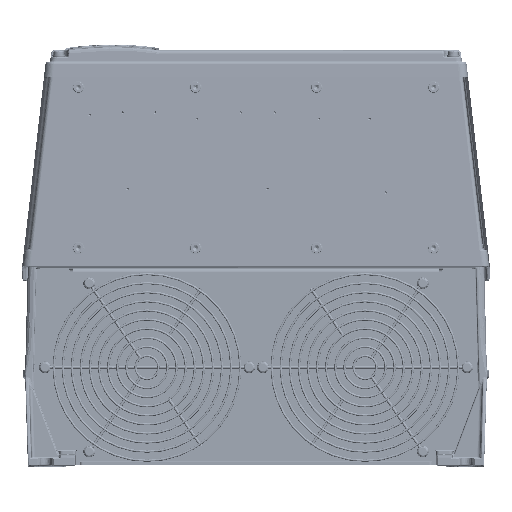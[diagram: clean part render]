
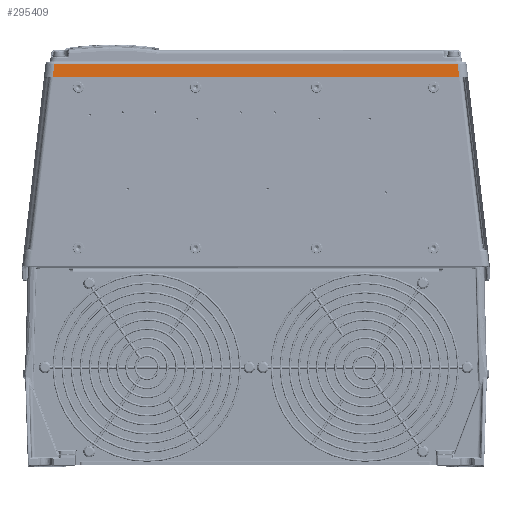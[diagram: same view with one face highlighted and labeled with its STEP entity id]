
A CAD part, top view. The second image highlights one B-rep face of the part: STEP entity #295409.
In plain terms, the highlighted planar face has unit normal (0, 0.035, 0.999).
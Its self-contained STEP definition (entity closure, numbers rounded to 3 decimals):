
#74630=CARTESIAN_POINT('',(-161.254,142.5,376.512));
#74640=DIRECTION('',(-1.,0.,0.));
#74641=VECTOR('',#74640,322.508);
#74642=CARTESIAN_POINT('',(161.254,142.5,376.512));
#74643=LINE('',#74642,#74641);
#74652=CARTESIAN_POINT('',(161.254,142.5,376.512));
#78473=DIRECTION('',(1.,0.,0.));
#78474=VECTOR('',#78473,320.133);
#78475=CARTESIAN_POINT('',(-160.066,152.763,
376.154));
#78476=LINE('',#78475,#78474);
#78477=DIRECTION('',(-0.115,0.993,-0.035));
#78478=VECTOR('',#78477,10.338);
#78479=CARTESIAN_POINT('',(161.254,142.5,376.512));
#78480=LINE('',#78479,#78478);
#78481=DIRECTION('',(0.115,0.993,-0.035));
#78482=VECTOR('',#78481,10.338);
#78483=CARTESIAN_POINT('',(-161.254,142.5,376.512));
#78484=LINE('',#78483,#78482);
#78529=CARTESIAN_POINT('',(-160.066,152.763,
376.154));
#122210=VERTEX_POINT('',#74630);
#122213=VERTEX_POINT('',#74652);
#122662=VERTEX_POINT('',#78529);
#122665=CARTESIAN_POINT('',(160.066,152.763,
376.154));
#122666=VERTEX_POINT('',#122665);
#295397=CARTESIAN_POINT('',(169.512,142.5,376.512));
#295398=DIRECTION('',(0.,0.035,0.999));
#295399=DIRECTION('',(-1.,0.,0.));
#295400=AXIS2_PLACEMENT_3D('',#295397,#295398,#295399);
#295401=PLANE('',#295400);
#295402=ORIENTED_EDGE('',*,*,#295208,.T.);
#295403=ORIENTED_EDGE('',*,*,#295385,.F.);
#295404=ORIENTED_EDGE('',*,*,#288345,.T.);
#295406=ORIENTED_EDGE('',*,*,#295405,.T.);
#295407=EDGE_LOOP('',(#295402,#295403,#295404,#295406));
#295408=FACE_OUTER_BOUND('',#295407,.F.);
#295409=ADVANCED_FACE('',(#295408),#295401,.T.);
#288345=EDGE_CURVE('',#122213,#122210,#74643,.T.);
#295208=EDGE_CURVE('',#122662,#122666,#78476,.T.);
#295385=EDGE_CURVE('',#122213,#122666,#78480,.T.);
#295405=EDGE_CURVE('',#122210,#122662,#78484,.T.);
